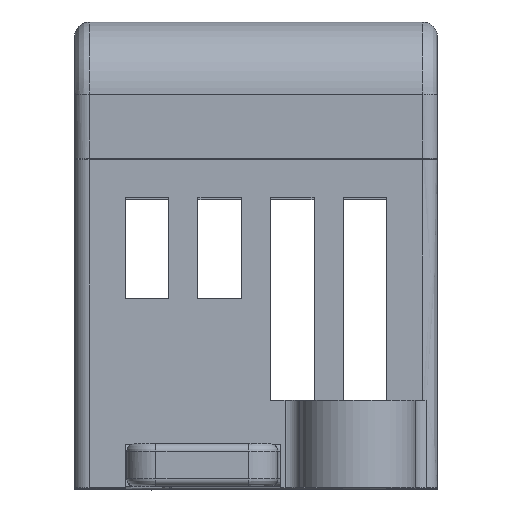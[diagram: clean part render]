
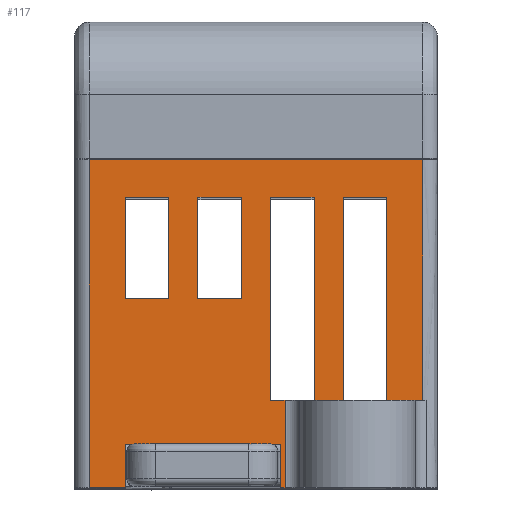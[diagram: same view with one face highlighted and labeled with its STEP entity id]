
A CAD part, top view. The second image highlights one B-rep face of the part: STEP entity #117.
In plain terms, the highlighted planar face has unit normal (0, 0, 1).
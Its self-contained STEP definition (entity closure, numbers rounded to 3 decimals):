
#69=FACE_BOUND('',#1311,.T.);
#70=FACE_BOUND('',#1312,.T.);
#117=ADVANCED_FACE('',(#712,#69,#70),#9957,.T.);
#712=FACE_OUTER_BOUND('',#1310,.T.);
#1310=EDGE_LOOP('',(#2006,#2007,#2008,#2009,#2010,#2011,#2012,#2013,#2014,
#2015,#2016,#2017,#2018,#2019,#2020,#2021,#2022,#2023));
#1311=EDGE_LOOP('',(#2024,#2025,#2026,#2027));
#1312=EDGE_LOOP('',(#2028,#2029,#2030,#2031));
#2006=ORIENTED_EDGE('',*,*,#5351,.T.);
#2007=ORIENTED_EDGE('',*,*,#5365,.T.);
#2008=ORIENTED_EDGE('',*,*,#5364,.T.);
#2009=ORIENTED_EDGE('',*,*,#5363,.T.);
#2010=ORIENTED_EDGE('',*,*,#5362,.T.);
#2011=ORIENTED_EDGE('',*,*,#5361,.T.);
#2012=ORIENTED_EDGE('',*,*,#5360,.T.);
#2013=ORIENTED_EDGE('',*,*,#5359,.T.);
#2014=ORIENTED_EDGE('',*,*,#5358,.T.);
#2015=ORIENTED_EDGE('',*,*,#5357,.T.);
#2016=ORIENTED_EDGE('',*,*,#5356,.T.);
#2017=ORIENTED_EDGE('',*,*,#5311,.T.);
#2018=ORIENTED_EDGE('',*,*,#5347,.T.);
#2019=ORIENTED_EDGE('',*,*,#5355,.T.);
#2020=ORIENTED_EDGE('',*,*,#5354,.T.);
#2021=ORIENTED_EDGE('',*,*,#5332,.T.);
#2022=ORIENTED_EDGE('',*,*,#5353,.T.);
#2023=ORIENTED_EDGE('',*,*,#5352,.T.);
#2024=ORIENTED_EDGE('',*,*,#5369,.T.);
#2025=ORIENTED_EDGE('',*,*,#5368,.T.);
#2026=ORIENTED_EDGE('',*,*,#5367,.T.);
#2027=ORIENTED_EDGE('',*,*,#5366,.T.);
#2028=ORIENTED_EDGE('',*,*,#5373,.T.);
#2029=ORIENTED_EDGE('',*,*,#5372,.T.);
#2030=ORIENTED_EDGE('',*,*,#5371,.T.);
#2031=ORIENTED_EDGE('',*,*,#5370,.T.);
#5311=EDGE_CURVE('',#8680,#8681,#7309,.T.);
#5332=EDGE_CURVE('',#8713,#8714,#7330,.T.);
#5347=EDGE_CURVE('',#8681,#8732,#7345,.T.);
#5351=EDGE_CURVE('',#8735,#8736,#7349,.T.);
#5352=EDGE_CURVE('',#8737,#8735,#7350,.T.);
#5353=EDGE_CURVE('',#8714,#8737,#7351,.T.);
#5354=EDGE_CURVE('',#8738,#8713,#7352,.T.);
#5355=EDGE_CURVE('',#8732,#8738,#7353,.T.);
#5356=EDGE_CURVE('',#8739,#8680,#7354,.T.);
#5357=EDGE_CURVE('',#8740,#8739,#7355,.T.);
#5358=EDGE_CURVE('',#8741,#8740,#7356,.T.);
#5359=EDGE_CURVE('',#8742,#8741,#7357,.T.);
#5360=EDGE_CURVE('',#8743,#8742,#7358,.T.);
#5361=EDGE_CURVE('',#8744,#8743,#7359,.T.);
#5362=EDGE_CURVE('',#8745,#8744,#7360,.T.);
#5363=EDGE_CURVE('',#8746,#8745,#7361,.T.);
#5364=EDGE_CURVE('',#8747,#8746,#7362,.T.);
#5365=EDGE_CURVE('',#8736,#8747,#7363,.T.);
#5366=EDGE_CURVE('',#8748,#8749,#7364,.T.);
#5367=EDGE_CURVE('',#8750,#8748,#7365,.T.);
#5368=EDGE_CURVE('',#8751,#8750,#7366,.T.);
#5369=EDGE_CURVE('',#8749,#8751,#7367,.T.);
#5370=EDGE_CURVE('',#8752,#8753,#7368,.T.);
#5371=EDGE_CURVE('',#8754,#8752,#7369,.T.);
#5372=EDGE_CURVE('',#8755,#8754,#7370,.T.);
#5373=EDGE_CURVE('',#8753,#8755,#7371,.T.);
#7309=B_SPLINE_CURVE_WITH_KNOTS('',1,(#14461,#14462),.UNSPECIFIED.,.F.,
 .F.,(2,2),(0.,2.5),.UNSPECIFIED.);
#7330=B_SPLINE_CURVE_WITH_KNOTS('',1,(#14503,#14504),.UNSPECIFIED.,.F.,
 .F.,(2,2),(0.,0.3),.UNSPECIFIED.);
#7345=B_SPLINE_CURVE_WITH_KNOTS('',1,(#14533,#14534),.UNSPECIFIED.,.F.,
 .F.,(2,2),(0.,3.),.UNSPECIFIED.);
#7349=B_SPLINE_CURVE_WITH_KNOTS('',1,(#14541,#14542),.UNSPECIFIED.,.F.,
 .F.,(2,2),(-14.,0.),.UNSPECIFIED.);
#7350=B_SPLINE_CURVE_WITH_KNOTS('',1,(#14543,#14544),.UNSPECIFIED.,.F.,
 .F.,(2,2),(-1.,0.),.UNSPECIFIED.);
#7351=B_SPLINE_CURVE_WITH_KNOTS('',1,(#14545,#14546),.UNSPECIFIED.,.F.,
 .F.,(2,2),(-6.,0.),.UNSPECIFIED.);
#7352=B_SPLINE_CURVE_WITH_KNOTS('',1,(#14547,#14548),.UNSPECIFIED.,.F.,
 .F.,(2,2),(-3.,0.),.UNSPECIFIED.);
#7353=B_SPLINE_CURVE_WITH_KNOTS('',1,(#14549,#14550),.UNSPECIFIED.,.F.,
 .F.,(2,2),(-10.7,0.),.UNSPECIFIED.);
#7354=B_SPLINE_CURVE_WITH_KNOTS('',1,(#14551,#14552),.UNSPECIFIED.,.F.,
 .F.,(2,2),(-22.6,0.),.UNSPECIFIED.);
#7355=B_SPLINE_CURVE_WITH_KNOTS('',1,(#14553,#14554),.UNSPECIFIED.,.F.,
 .F.,(2,2),(-23.,0.),.UNSPECIFIED.);
#7356=B_SPLINE_CURVE_WITH_KNOTS('',1,(#14555,#14556),.UNSPECIFIED.,.F.,
 .F.,(2,2),(-16.6,0.),.UNSPECIFIED.);
#7357=B_SPLINE_CURVE_WITH_KNOTS('',1,(#14557,#14558),.UNSPECIFIED.,.F.,
 .F.,(2,2),(-2.5,0.),.UNSPECIFIED.);
#7358=B_SPLINE_CURVE_WITH_KNOTS('',1,(#14559,#14560),.UNSPECIFIED.,.F.,
 .F.,(2,2),(-14.,0.),.UNSPECIFIED.);
#7359=B_SPLINE_CURVE_WITH_KNOTS('',1,(#14561,#14562),.UNSPECIFIED.,.F.,
 .F.,(2,2),(-3.,0.),.UNSPECIFIED.);
#7360=B_SPLINE_CURVE_WITH_KNOTS('',1,(#14563,#14564),.UNSPECIFIED.,.F.,
 .F.,(2,2),(-14.,0.),.UNSPECIFIED.);
#7361=B_SPLINE_CURVE_WITH_KNOTS('',1,(#14565,#14566),.UNSPECIFIED.,.F.,
 .F.,(2,2),(-2.,0.),.UNSPECIFIED.);
#7362=B_SPLINE_CURVE_WITH_KNOTS('',1,(#14567,#14568),.UNSPECIFIED.,.F.,
 .F.,(2,2),(-14.,0.),.UNSPECIFIED.);
#7363=B_SPLINE_CURVE_WITH_KNOTS('',1,(#14569,#14570),.UNSPECIFIED.,.F.,
 .F.,(2,2),(-3.,0.),.UNSPECIFIED.);
#7364=B_SPLINE_CURVE_WITH_KNOTS('',1,(#14571,#14572),.UNSPECIFIED.,.F.,
 .F.,(2,2),(-3.,0.),.UNSPECIFIED.);
#7365=B_SPLINE_CURVE_WITH_KNOTS('',1,(#14573,#14574),.UNSPECIFIED.,.F.,
 .F.,(2,2),(-7.,0.),.UNSPECIFIED.);
#7366=B_SPLINE_CURVE_WITH_KNOTS('',1,(#14575,#14576),.UNSPECIFIED.,.F.,
 .F.,(2,2),(-3.,0.),.UNSPECIFIED.);
#7367=B_SPLINE_CURVE_WITH_KNOTS('',1,(#14577,#14578),.UNSPECIFIED.,.F.,
 .F.,(2,2),(-7.,0.),.UNSPECIFIED.);
#7368=B_SPLINE_CURVE_WITH_KNOTS('',1,(#14579,#14580),.UNSPECIFIED.,.F.,
 .F.,(2,2),(-3.,0.),.UNSPECIFIED.);
#7369=B_SPLINE_CURVE_WITH_KNOTS('',1,(#14581,#14582),.UNSPECIFIED.,.F.,
 .F.,(2,2),(-7.,0.),.UNSPECIFIED.);
#7370=B_SPLINE_CURVE_WITH_KNOTS('',1,(#14583,#14584),.UNSPECIFIED.,.F.,
 .F.,(2,2),(-3.,0.),.UNSPECIFIED.);
#7371=B_SPLINE_CURVE_WITH_KNOTS('',1,(#14585,#14586),.UNSPECIFIED.,.F.,
 .F.,(2,2),(-7.,0.),.UNSPECIFIED.);
#8680=VERTEX_POINT('',#13834);
#8681=VERTEX_POINT('',#13835);
#8713=VERTEX_POINT('',#13867);
#8714=VERTEX_POINT('',#13868);
#8732=VERTEX_POINT('',#13886);
#8735=VERTEX_POINT('',#13889);
#8736=VERTEX_POINT('',#13890);
#8737=VERTEX_POINT('',#13891);
#8738=VERTEX_POINT('',#13892);
#8739=VERTEX_POINT('',#13893);
#8740=VERTEX_POINT('',#13894);
#8741=VERTEX_POINT('',#13895);
#8742=VERTEX_POINT('',#13896);
#8743=VERTEX_POINT('',#13897);
#8744=VERTEX_POINT('',#13898);
#8745=VERTEX_POINT('',#13899);
#8746=VERTEX_POINT('',#13900);
#8747=VERTEX_POINT('',#13901);
#8748=VERTEX_POINT('',#13902);
#8749=VERTEX_POINT('',#13903);
#8750=VERTEX_POINT('',#13904);
#8751=VERTEX_POINT('',#13905);
#8752=VERTEX_POINT('',#13906);
#8753=VERTEX_POINT('',#13907);
#8754=VERTEX_POINT('',#13908);
#8755=VERTEX_POINT('',#13909);
#9957=PLANE('',#10464);
#10464=AXIS2_PLACEMENT_3D('',#11310,#10884,$);
#10884=DIRECTION('',(0.,0.,1.));
#11310=CARTESIAN_POINT('',(-13.934,-2.394,45.));
#13834=CARTESIAN_POINT('',(-11.5,0.,45.));
#13835=CARTESIAN_POINT('',(-9.,0.,45.));
#13867=CARTESIAN_POINT('',(1.7,0.,45.));
#13868=CARTESIAN_POINT('',(2.,0.,45.));
#13886=CARTESIAN_POINT('',(-9.,3.,45.));
#13889=CARTESIAN_POINT('',(1.,6.,45.));
#13890=CARTESIAN_POINT('',(1.,20.,45.));
#13891=CARTESIAN_POINT('',(2.,6.,45.));
#13892=CARTESIAN_POINT('',(1.7,3.,45.));
#13893=CARTESIAN_POINT('',(-11.5,22.6,45.));
#13894=CARTESIAN_POINT('',(11.5,22.6,45.));
#13895=CARTESIAN_POINT('',(11.5,6.,45.));
#13896=CARTESIAN_POINT('',(9.,6.,45.));
#13897=CARTESIAN_POINT('',(9.,20.,45.));
#13898=CARTESIAN_POINT('',(6.,20.,45.));
#13899=CARTESIAN_POINT('',(6.,6.,45.));
#13900=CARTESIAN_POINT('',(4.,6.,45.));
#13901=CARTESIAN_POINT('',(4.,20.,45.));
#13902=CARTESIAN_POINT('',(-4.,20.,45.));
#13903=CARTESIAN_POINT('',(-1.,20.,45.));
#13904=CARTESIAN_POINT('',(-4.,13.,45.));
#13905=CARTESIAN_POINT('',(-1.,13.,45.));
#13906=CARTESIAN_POINT('',(-9.,20.,45.));
#13907=CARTESIAN_POINT('',(-6.,20.,45.));
#13908=CARTESIAN_POINT('',(-9.,13.,45.));
#13909=CARTESIAN_POINT('',(-6.,13.,45.));
#14461=CARTESIAN_POINT('',(-11.5,0.,45.));
#14462=CARTESIAN_POINT('',(-9.,0.,45.));
#14503=CARTESIAN_POINT('',(1.7,0.,45.));
#14504=CARTESIAN_POINT('',(2.,0.,45.));
#14533=CARTESIAN_POINT('',(-9.,0.,45.));
#14534=CARTESIAN_POINT('',(-9.,3.,45.));
#14541=CARTESIAN_POINT('',(1.,6.,45.));
#14542=CARTESIAN_POINT('',(1.,20.,45.));
#14543=CARTESIAN_POINT('',(2.,6.,45.));
#14544=CARTESIAN_POINT('',(1.,6.,45.));
#14545=CARTESIAN_POINT('',(2.,0.,45.));
#14546=CARTESIAN_POINT('',(2.,6.,45.));
#14547=CARTESIAN_POINT('',(1.7,3.,45.));
#14548=CARTESIAN_POINT('',(1.7,0.,45.));
#14549=CARTESIAN_POINT('',(-9.,3.,45.));
#14550=CARTESIAN_POINT('',(1.7,3.,45.));
#14551=CARTESIAN_POINT('',(-11.5,22.6,45.));
#14552=CARTESIAN_POINT('',(-11.5,0.,45.));
#14553=CARTESIAN_POINT('',(11.5,22.6,45.));
#14554=CARTESIAN_POINT('',(-11.5,22.6,45.));
#14555=CARTESIAN_POINT('',(11.5,6.,45.));
#14556=CARTESIAN_POINT('',(11.5,22.6,45.));
#14557=CARTESIAN_POINT('',(9.,6.,45.));
#14558=CARTESIAN_POINT('',(11.5,6.,45.));
#14559=CARTESIAN_POINT('',(9.,20.,45.));
#14560=CARTESIAN_POINT('',(9.,6.,45.));
#14561=CARTESIAN_POINT('',(6.,20.,45.));
#14562=CARTESIAN_POINT('',(9.,20.,45.));
#14563=CARTESIAN_POINT('',(6.,6.,45.));
#14564=CARTESIAN_POINT('',(6.,20.,45.));
#14565=CARTESIAN_POINT('',(4.,6.,45.));
#14566=CARTESIAN_POINT('',(6.,6.,45.));
#14567=CARTESIAN_POINT('',(4.,20.,45.));
#14568=CARTESIAN_POINT('',(4.,6.,45.));
#14569=CARTESIAN_POINT('',(1.,20.,45.));
#14570=CARTESIAN_POINT('',(4.,20.,45.));
#14571=CARTESIAN_POINT('',(-4.,20.,45.));
#14572=CARTESIAN_POINT('',(-1.,20.,45.));
#14573=CARTESIAN_POINT('',(-4.,13.,45.));
#14574=CARTESIAN_POINT('',(-4.,20.,45.));
#14575=CARTESIAN_POINT('',(-1.,13.,45.));
#14576=CARTESIAN_POINT('',(-4.,13.,45.));
#14577=CARTESIAN_POINT('',(-1.,20.,45.));
#14578=CARTESIAN_POINT('',(-1.,13.,45.));
#14579=CARTESIAN_POINT('',(-9.,20.,45.));
#14580=CARTESIAN_POINT('',(-6.,20.,45.));
#14581=CARTESIAN_POINT('',(-9.,13.,45.));
#14582=CARTESIAN_POINT('',(-9.,20.,45.));
#14583=CARTESIAN_POINT('',(-6.,13.,45.));
#14584=CARTESIAN_POINT('',(-9.,13.,45.));
#14585=CARTESIAN_POINT('',(-6.,20.,45.));
#14586=CARTESIAN_POINT('',(-6.,13.,45.));
